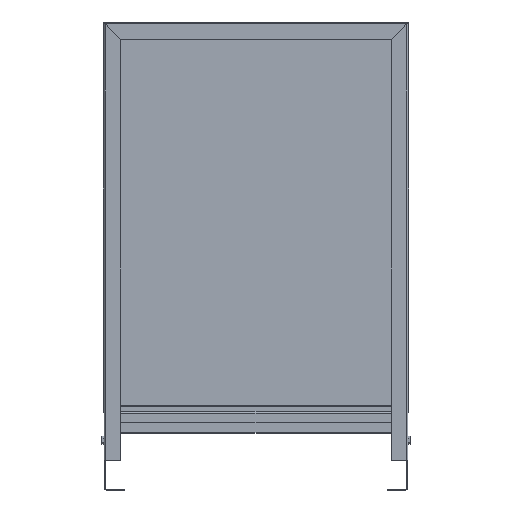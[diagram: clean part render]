
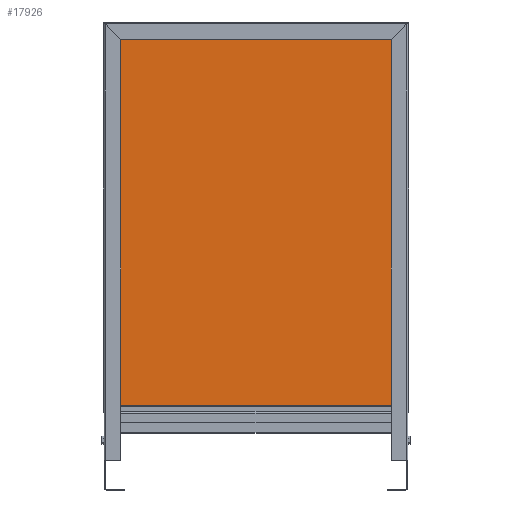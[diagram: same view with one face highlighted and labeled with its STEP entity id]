
A CAD part, front view. The second image highlights one B-rep face of the part: STEP entity #17926.
In plain terms, the highlighted planar face has unit normal (0, -1, 0).
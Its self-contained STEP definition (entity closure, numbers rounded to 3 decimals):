
#17642=CARTESIAN_POINT('',(223.5,0.8,647.2));
#17643=VERTEX_POINT('',#17642);
#17651=CARTESIAN_POINT('',(223.5,0.8,81.8));
#17652=VERTEX_POINT('',#17651);
#17653=CARTESIAN_POINT('',(223.5,0.8,647.2));
#17654=DIRECTION('',(0.,0.,-1.));
#17655=VECTOR('',#17654,565.4);
#17656=LINE('',#17653,#17655);
#17657=EDGE_CURVE('',#17643,#17652,#17656,.T.);
#17695=CARTESIAN_POINT('',(-223.5,0.8,81.8));
#17696=VERTEX_POINT('',#17695);
#17704=CARTESIAN_POINT('',(-223.5,0.8,647.2));
#17705=VERTEX_POINT('',#17704);
#17706=CARTESIAN_POINT('',(-223.5,0.8,81.8));
#17707=DIRECTION('',(0.,0.,1.));
#17708=VECTOR('',#17707,565.4);
#17709=LINE('',#17706,#17708);
#17710=EDGE_CURVE('',#17696,#17705,#17709,.T.);
#17858=CARTESIAN_POINT('',(223.5,0.8,81.8));
#17859=DIRECTION('',(-1.,0.,0.));
#17860=VECTOR('',#17859,447.);
#17861=LINE('',#17858,#17860);
#17862=EDGE_CURVE('',#17652,#17696,#17861,.T.);
#17892=CARTESIAN_POINT('',(-223.5,0.8,647.2));
#17893=DIRECTION('',(1.,0.,-0.));
#17894=VECTOR('',#17893,447.);
#17895=LINE('',#17892,#17894);
#17896=EDGE_CURVE('',#17705,#17643,#17895,.T.);
#17915=CARTESIAN_POINT('',(0.,0.8,0.));
#17916=DIRECTION('',(0.,1.,0.));
#17917=DIRECTION('',(-1.,0.,0.));
#17918=AXIS2_PLACEMENT_3D('',#17915,#17916,#17917);
#17919=PLANE('',#17918);
#17920=ORIENTED_EDGE('',*,*,#17862,.F.);
#17921=ORIENTED_EDGE('',*,*,#17657,.F.);
#17922=ORIENTED_EDGE('',*,*,#17896,.F.);
#17923=ORIENTED_EDGE('',*,*,#17710,.F.);
#17924=EDGE_LOOP('',(#17920,#17921,#17922,#17923));
#17925=FACE_BOUND('',#17924,.T.);
#17926=ADVANCED_FACE('',(#17925),#17919,.F.);
